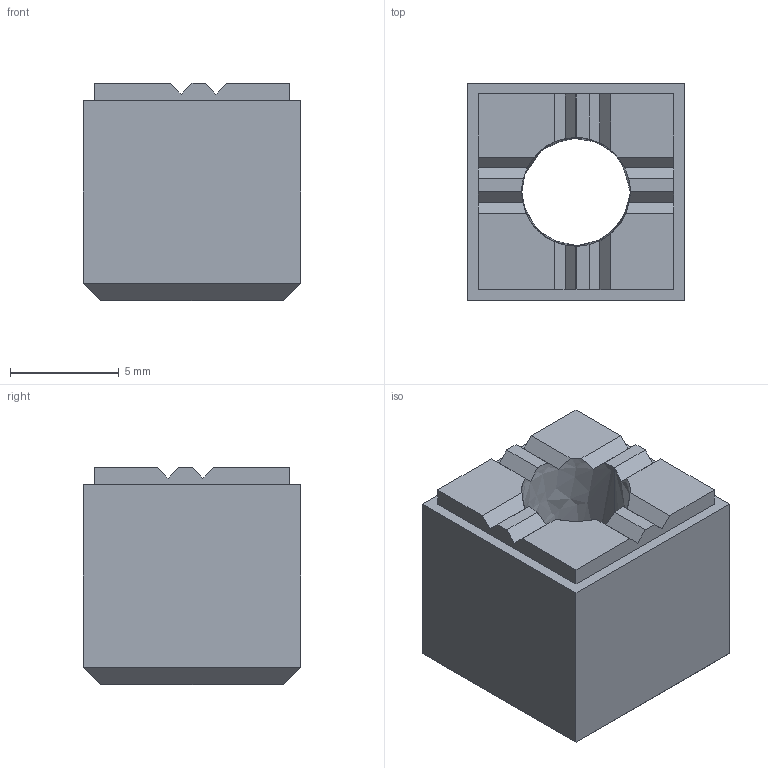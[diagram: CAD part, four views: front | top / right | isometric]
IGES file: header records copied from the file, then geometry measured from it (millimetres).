
Start section: SolidWorks IGES FILE using analytic representation for surfaces
Global section: file name: C:\WIX2\Positioning\3546\3546W001.igs; native system: SolidWorks 2003 by SolidWorks Corporation; preprocessor: Version 5.3; author: Joan; date: 030722.143858; units: millimetre
Bounding box: 10 x 10 x 10 mm (x, y, z)
Surface area: 697.9 mm2 (no closed solid volume)
Topology: 0 solids, 0 shells, 40 faces, 251 edges, 251 vertices
Faces by surface type: bspline 38, revolution 2
